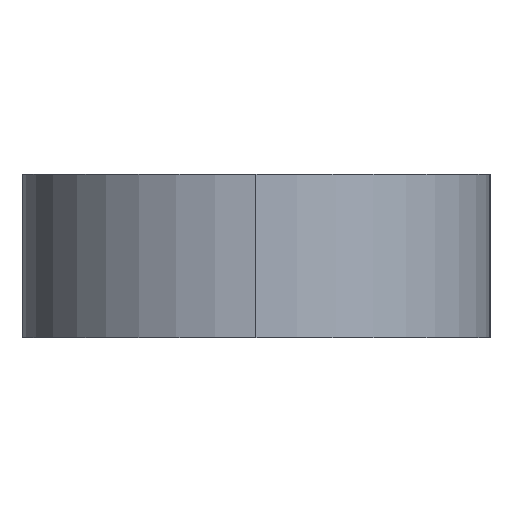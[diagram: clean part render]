
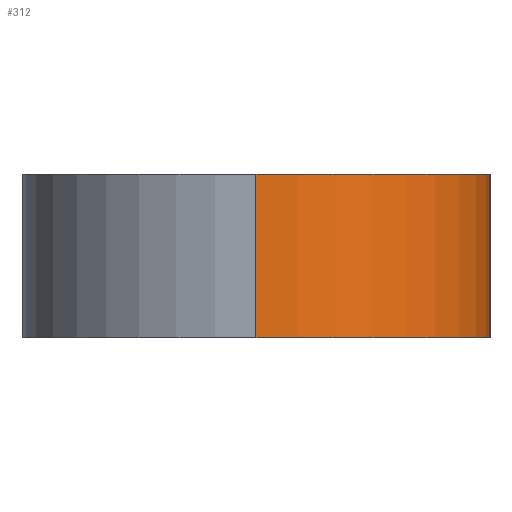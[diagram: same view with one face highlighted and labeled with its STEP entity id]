
A CAD part, left-side view. The second image highlights one B-rep face of the part: STEP entity #312.
In plain terms, the highlighted cylindrical face has radius 12.88 mm (diameter 25.76 mm), a partial arc.
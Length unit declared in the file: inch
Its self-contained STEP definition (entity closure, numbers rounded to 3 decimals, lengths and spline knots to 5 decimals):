
#15 = CARTESIAN_POINT ( 'NONE',  ( 0., -0.50709, 0.35433 ) ) ;
#16 = AXIS2_PLACEMENT_3D ( 'NONE', #157, #284, #293 ) ;
#33 = EDGE_CURVE ( 'NONE', #328, #228, #313, .T. ) ;
#40 = VERTEX_POINT ( 'NONE', #316 ) ;
#43 = DIRECTION ( 'NONE',  ( 0., 0., -1. ) ) ;
#70 = FACE_OUTER_BOUND ( 'NONE', #91, .T. ) ;
#72 = VECTOR ( 'NONE', #43, 39.37008 ) ;
#77 = DIRECTION ( 'NONE',  ( -1., 0., 0. ) ) ;
#91 = EDGE_LOOP ( 'NONE', ( #257, #372, #403, #174 ) ) ;
#98 = CIRCLE ( 'NONE', #408, 0.50709 ) ;
#107 = CARTESIAN_POINT ( 'NONE',  ( 0., 0., 0.35433 ) ) ;
#114 = CARTESIAN_POINT ( 'NONE',  ( 0., 0., 0.35433 ) ) ;
#121 = EDGE_CURVE ( 'NONE', #363, #228, #175, .T. ) ;
#136 = CARTESIAN_POINT ( 'NONE',  ( 0., -0.50709, 0. ) ) ;
#137 = DIRECTION ( 'NONE',  ( 1., 0., 0. ) ) ;
#157 = CARTESIAN_POINT ( 'NONE',  ( 0., 0., 0. ) ) ;
#159 = VECTOR ( 'NONE', #217, 39.37008 ) ;
#171 = CARTESIAN_POINT ( 'NONE',  ( 0., -0.50709, 0.35433 ) ) ;
#174 = ORIENTED_EDGE ( 'NONE', *, *, #33, .F. ) ;
#175 = CIRCLE ( 'NONE', #16, 0.50709 ) ;
#205 = CYLINDRICAL_SURFACE ( 'NONE', #208, 0.50709 ) ;
#208 = AXIS2_PLACEMENT_3D ( 'NONE', #107, #339, #77 ) ;
#210 = DIRECTION ( 'NONE',  ( 0., 0., 1. ) ) ;
#217 = DIRECTION ( 'NONE',  ( 0., 0., -1. ) ) ;
#228 = VERTEX_POINT ( 'NONE', #136 ) ;
#257 = ORIENTED_EDGE ( 'NONE', *, *, #406, .F. ) ;
#284 = DIRECTION ( 'NONE',  ( 0., 0., 1. ) ) ;
#293 = DIRECTION ( 'NONE',  ( 1., 0., 0. ) ) ;
#312 = ADVANCED_FACE ( 'NONE', ( #70 ), #205, .T. ) ;
#313 = LINE ( 'NONE', #15, #159 ) ;
#314 = LINE ( 'NONE', #369, #72 ) ;
#316 = CARTESIAN_POINT ( 'NONE',  ( -0.50709, 0., 0.35433 ) ) ;
#328 = VERTEX_POINT ( 'NONE', #171 ) ;
#339 = DIRECTION ( 'NONE',  ( 0., 0., -1. ) ) ;
#350 = EDGE_CURVE ( 'NONE', #40, #363, #314, .T. ) ;
#363 = VERTEX_POINT ( 'NONE', #374 ) ;
#369 = CARTESIAN_POINT ( 'NONE',  ( -0.50709, 0., 0.35433 ) ) ;
#372 = ORIENTED_EDGE ( 'NONE', *, *, #350, .T. ) ;
#374 = CARTESIAN_POINT ( 'NONE',  ( -0.50709, 0., 0. ) ) ;
#403 = ORIENTED_EDGE ( 'NONE', *, *, #121, .T. ) ;
#406 = EDGE_CURVE ( 'NONE', #40, #328, #98, .T. ) ;
#408 = AXIS2_PLACEMENT_3D ( 'NONE', #114, #210, #137 ) ;
